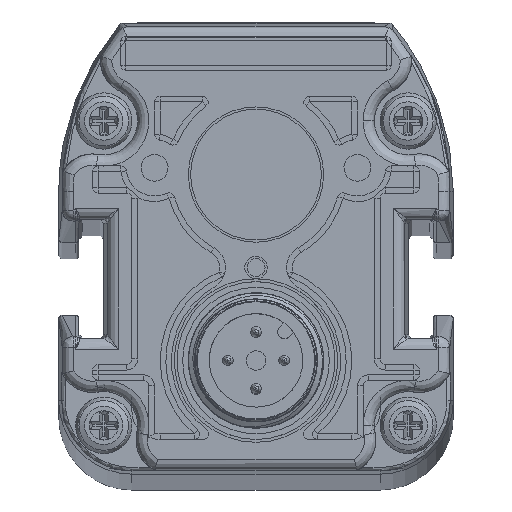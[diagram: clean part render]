
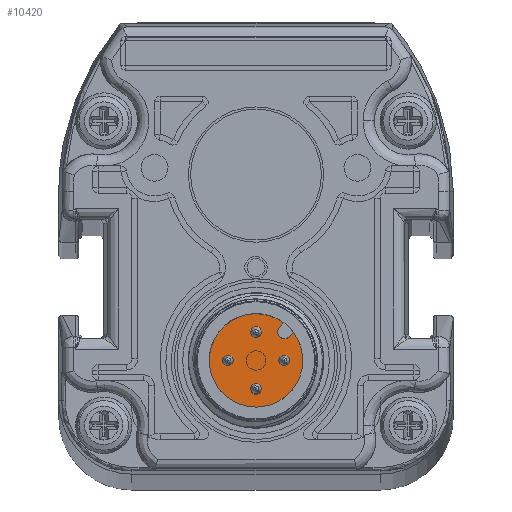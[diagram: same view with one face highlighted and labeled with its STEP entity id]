
A CAD part, top view. The second image highlights one B-rep face of the part: STEP entity #10420.
In plain terms, the highlighted planar face has unit normal (0, 0, 1).
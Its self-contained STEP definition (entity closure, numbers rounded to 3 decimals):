
#10420=ADVANCED_FACE('',(#12050,#12051,#12052,#12053,#12054),#11618,.T.);
#11618=PLANE('',#28462);
#12050=FACE_BOUND('',#12398,.T.);
#12051=FACE_BOUND('',#12399,.T.);
#12052=FACE_BOUND('',#12400,.T.);
#12053=FACE_BOUND('',#12401,.T.);
#12054=FACE_BOUND('',#12402,.T.);
#12398=EDGE_LOOP('',(#15487));
#12399=EDGE_LOOP('',(#15488));
#12400=EDGE_LOOP('',(#15489));
#12401=EDGE_LOOP('',(#15490));
#12402=EDGE_LOOP('',(#15491,#15492,#15493,#15494));
#13671=CIRCLE('',#28427,0.5);
#13675=CIRCLE('',#28434,0.5);
#13679=CIRCLE('',#28441,0.5);
#13683=CIRCLE('',#28448,0.5);
#13686=CIRCLE('',#28455,0.6);
#13687=CIRCLE('',#28457,4.15);
#15487=ORIENTED_EDGE('',*,*,#23218,.T.);
#15488=ORIENTED_EDGE('',*,*,#23222,.T.);
#15489=ORIENTED_EDGE('',*,*,#23214,.T.);
#15490=ORIENTED_EDGE('',*,*,#23210,.T.);
#15491=ORIENTED_EDGE('',*,*,#23233,.T.);
#15492=ORIENTED_EDGE('',*,*,#23230,.T.);
#15493=ORIENTED_EDGE('',*,*,#23234,.F.);
#15494=ORIENTED_EDGE('',*,*,#23227,.T.);
#21145=VERTEX_POINT('',#39073);
#21149=VERTEX_POINT('',#39112);
#21153=VERTEX_POINT('',#39151);
#21157=VERTEX_POINT('',#39190);
#21162=VERTEX_POINT('',#39202);
#21163=VERTEX_POINT('',#39203);
#21164=VERTEX_POINT('',#39208);
#21165=VERTEX_POINT('',#39209);
#23210=EDGE_CURVE('',#21145,#21145,#13671,.T.);
#23214=EDGE_CURVE('',#21149,#21149,#13675,.T.);
#23218=EDGE_CURVE('',#21153,#21153,#13679,.T.);
#23222=EDGE_CURVE('',#21157,#21157,#13683,.T.);
#23227=EDGE_CURVE('',#21162,#21163,#26025,.T.);
#23230=EDGE_CURVE('',#21164,#21165,#26028,.T.);
#23233=EDGE_CURVE('',#21163,#21164,#13686,.T.);
#23234=EDGE_CURVE('',#21162,#21165,#13687,.T.);
#26025=LINE('',#39201,#27223);
#26028=LINE('',#39207,#27226);
#27223=VECTOR('',#31130,1.);
#27226=VECTOR('',#31135,1.);
#28427=AXIS2_PLACEMENT_3D('',#39072,#31076,#31077);
#28434=AXIS2_PLACEMENT_3D('',#39111,#31090,#31091);
#28441=AXIS2_PLACEMENT_3D('',#39150,#31104,#31105);
#28448=AXIS2_PLACEMENT_3D('',#39189,#31118,#31119);
#28455=AXIS2_PLACEMENT_3D('',#39213,#31140,#31141);
#28457=AXIS2_PLACEMENT_3D('',#39215,#31144,#31145);
#28462=AXIS2_PLACEMENT_3D('',#39222,#31154,#31155);
#31076=DIRECTION('',(0.,0.,-1.));
#31077=DIRECTION('',(1.,0.,0.));
#31090=DIRECTION('',(0.,0.,-1.));
#31091=DIRECTION('',(1.,0.,0.));
#31104=DIRECTION('',(0.,0.,-1.));
#31105=DIRECTION('',(1.,0.,0.));
#31118=DIRECTION('',(0.,0.,-1.));
#31119=DIRECTION('',(1.,0.,0.));
#31130=DIRECTION('',(-0.707,-0.707,0.));
#31135=DIRECTION('',(0.707,0.707,0.));
#31140=DIRECTION('',(0.,0.,-1.));
#31141=DIRECTION('',(1.,0.,0.));
#31144=DIRECTION('',(0.,0.,-1.));
#31145=DIRECTION('',(1.,0.,0.));
#31154=DIRECTION('',(0.,0.,1.));
#31155=DIRECTION('',(-1.,0.,0.));
#39072=CARTESIAN_POINT('',(19.513,7.557,258.168));
#39073=CARTESIAN_POINT('',(20.013,7.557,258.168));
#39111=CARTESIAN_POINT('',(24.513,7.557,258.168));
#39112=CARTESIAN_POINT('',(25.013,7.557,258.168));
#39150=CARTESIAN_POINT('',(22.013,10.057,258.168));
#39151=CARTESIAN_POINT('',(22.513,10.057,258.168));
#39189=CARTESIAN_POINT('',(22.013,5.057,258.168));
#39190=CARTESIAN_POINT('',(22.513,5.057,258.168));
#39201=CARTESIAN_POINT('',(25.341,10.036,258.168));
#39202=CARTESIAN_POINT('',(25.341,10.036,258.168));
#39203=CARTESIAN_POINT('',(24.947,9.643,258.168));
#39207=CARTESIAN_POINT('',(24.099,10.492,258.168));
#39208=CARTESIAN_POINT('',(24.099,10.492,258.168));
#39209=CARTESIAN_POINT('',(24.492,10.885,258.168));
#39213=CARTESIAN_POINT('',(24.523,10.067,258.168));
#39215=CARTESIAN_POINT('',(22.013,7.557,258.168));
#39222=CARTESIAN_POINT('',(22.013,7.557,258.168));
